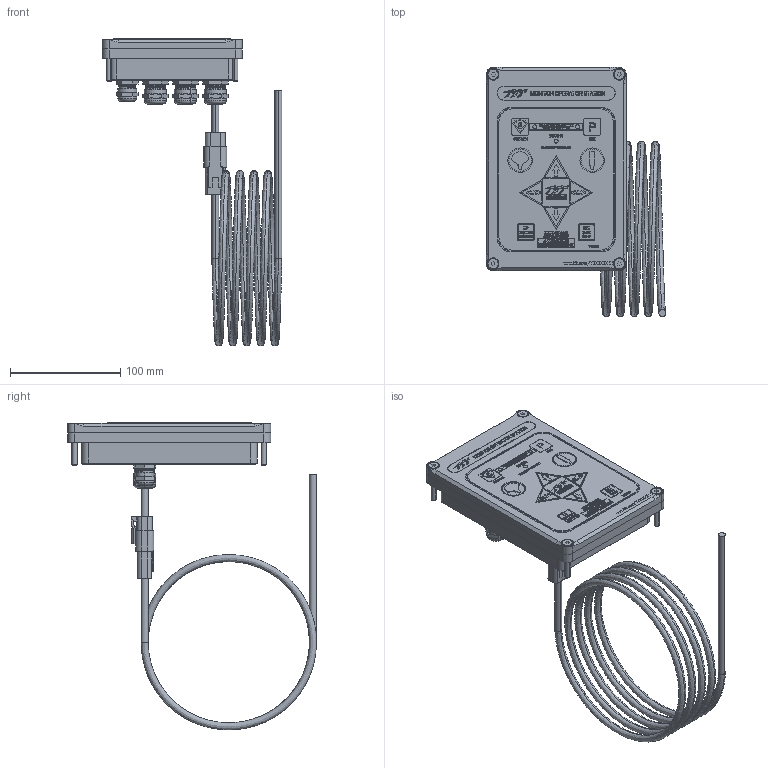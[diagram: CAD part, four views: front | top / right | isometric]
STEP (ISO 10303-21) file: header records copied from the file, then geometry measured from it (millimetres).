
FILE_DESCRIPTION (( 'STEP AP203' ), '1' );
FILE_NAME ('Y4E-RP.STEP', '2014-06-26T20:16:46', ( '' ), ( '' ), 'SwSTEP 2.0', 'SolidWorks 2014', '' );
FILE_SCHEMA (( 'CONFIG_CONTROL_DESIGN' ));
Products named in the file (1): Y4E-RP
Bounding box: 162.94 x 225.43 x 278.76 mm (x, y, z)
Surface area: 148178.4 mm2 (no closed solid volume)
Topology: 0 solids, 190 shells, 1045 faces, 7659 edges, 6709 vertices
Faces by surface type: plane 709, cylinder 153, cone 78, bspline 63, torus 24, sphere 18
Entity records: 99866 total; most frequent: CARTESIAN_POINT 48726, ORIENTED_EDGE 9255, DIRECTION 8166, EDGE_CURVE 7621, VERTEX_POINT 6693, LINE 5030, VECTOR 5030, B_SPLINE_CURVE_WITH_KNOTS 1942
